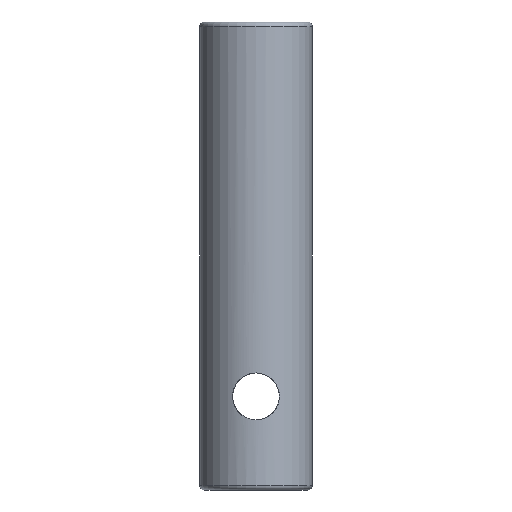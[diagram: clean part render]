
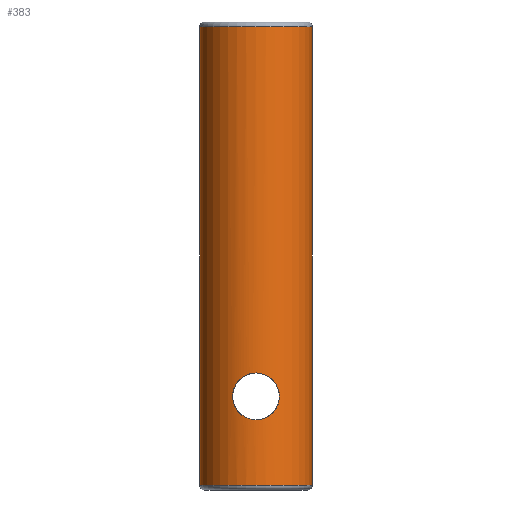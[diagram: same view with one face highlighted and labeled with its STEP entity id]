
A CAD part, front view. The second image highlights one B-rep face of the part: STEP entity #383.
In plain terms, the highlighted cylindrical face has radius 6 mm (diameter 12 mm), a partial arc.
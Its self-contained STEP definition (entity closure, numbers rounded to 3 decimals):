
#20 = CARTESIAN_POINT ( 'NONE',  ( 1.258, -5.868, 7.834 ) ) ;
#21 = CARTESIAN_POINT ( 'NONE',  ( 6., 0., 50. ) ) ;
#33 = CARTESIAN_POINT ( 'NONE',  ( 1.653, -5.769, 11.883 ) ) ;
#46 = CARTESIAN_POINT ( 'NONE',  ( 2.484, -5.462, 9.67 ) ) ;
#60 = EDGE_CURVE ( 'NONE', #730, #531, #308, .T. ) ;
#66 = CARTESIAN_POINT ( 'NONE',  ( -0.812, -5.947, 7.63 ) ) ;
#78 = ORIENTED_EDGE ( 'NONE', *, *, #281, .T. ) ;
#81 = VECTOR ( 'NONE', #179, 1000. ) ;
#95 = CARTESIAN_POINT ( 'NONE',  ( 0.654, -5.966, 7.581 ) ) ;
#106 = CARTESIAN_POINT ( 'NONE',  ( 2.483, -5.462, 10.331 ) ) ;
#117 = CARTESIAN_POINT ( 'NONE',  ( 6., 0., 49.5 ) ) ;
#128 = CARTESIAN_POINT ( 'NONE',  ( -1.986, -5.663, 8.473 ) ) ;
#137 = CARTESIAN_POINT ( 'NONE',  ( -0.333, -5.993, 7.517 ) ) ;
#146 = EDGE_CURVE ( 'NONE', #531, #730, #278, .T. ) ;
#161 = CARTESIAN_POINT ( 'NONE',  ( 0.331, -5.993, 7.517 ) ) ;
#162 = DIRECTION ( 'NONE',  ( 0., 0., -1. ) ) ;
#165 = CARTESIAN_POINT ( 'NONE',  ( 2.243, -5.565, 11.115 ) ) ;
#167 = CARTESIAN_POINT ( 'NONE',  ( 1.113, -5.898, 12.245 ) ) ;
#179 = DIRECTION ( 'NONE',  ( 0., 0., -1. ) ) ;
#185 = CARTESIAN_POINT ( 'NONE',  ( -1.115, -5.898, 12.244 ) ) ;
#199 = CARTESIAN_POINT ( 'NONE',  ( -1.883, -5.698, 8.348 ) ) ;
#226 = CARTESIAN_POINT ( 'NONE',  ( 0., 0., 50. ) ) ;
#227 = CARTESIAN_POINT ( 'NONE',  ( 1.529, -5.804, 8.015 ) ) ;
#246 = CARTESIAN_POINT ( 'NONE',  ( -0.656, -5.966, 12.418 ) ) ;
#252 = CARTESIAN_POINT ( 'NONE',  ( -1.529, -5.804, 11.985 ) ) ;
#254 = CARTESIAN_POINT ( 'NONE',  ( 0., -6., 7.5 ) ) ;
#262 = CARTESIAN_POINT ( 'NONE',  ( 6., 0., 0.5 ) ) ;
#270 = CARTESIAN_POINT ( 'NONE',  ( -1.528, -5.804, 8.015 ) ) ;
#278 = B_SPLINE_CURVE_WITH_KNOTS ( 'NONE', 3,
 ( #446, #569, #629, #246, #384, #185, #631, #252, #692, #312, #822, #449, #573, #697, #758, #819, #459, #701, #395, #837, #518, #128, #199, #330, #270, #652, #648, #66, #829, #137, #586, #465 ),
 .UNSPECIFIED., .F., .F.,
 ( 4, 2, 2, 2, 2, 2, 2, 2, 2, 2, 2, 2, 2, 2, 2, 4 ),
 ( 0.008, 0.008, 0.009, 0.009, 0.01, 0.01, 0.011, 0.011, 0.012, 0.013, 0.013, 0.014, 0.014, 0.015, 0.015, 0.016 ),
 .UNSPECIFIED. ) ;
#281 = EDGE_CURVE ( 'NONE', #412, #786, #539, .T. ) ;
#284 = ORIENTED_EDGE ( 'NONE', *, *, #430, .T. ) ;
#289 = CARTESIAN_POINT ( 'NONE',  ( -6., 0., 0.5 ) ) ;
#297 = CARTESIAN_POINT ( 'NONE',  ( 1.986, -5.663, 11.527 ) ) ;
#303 = CARTESIAN_POINT ( 'NONE',  ( 2.5, -5.454, 10.164 ) ) ;
#308 = B_SPLINE_CURVE_WITH_KNOTS ( 'NONE', 3,
 ( #550, #669, #161, #95, #547, #803, #20, #227, #540, #429, #433, #365, #685, #46, #367, #303, #106, #752, #375, #165, #806, #297, #745, #33, #809, #436, #167, #672, #487, #738 ),
 .UNSPECIFIED., .F., .F.,
 ( 4, 2, 2, 2, 2, 2, 2, 2, 2, 2, 2, 2, 2, 2, 4 ),
 ( 0., 0., 0.001, 0.001, 0.002, 0.003, 0.003, 0.004, 0.004, 0.005, 0.005, 0.006, 0.006, 0.007, 0.008 ),
 .UNSPECIFIED. ) ;
#309 = CARTESIAN_POINT ( 'NONE',  ( -6., 0., 49.5 ) ) ;
#312 = CARTESIAN_POINT ( 'NONE',  ( -1.884, -5.698, 11.651 ) ) ;
#328 = LINE ( 'NONE', #21, #815 ) ;
#330 = CARTESIAN_POINT ( 'NONE',  ( -1.654, -5.769, 8.118 ) ) ;
#339 = CARTESIAN_POINT ( 'NONE',  ( 0., 0., 0.5 ) ) ;
#350 = CYLINDRICAL_SURFACE ( 'NONE', #707, 6. ) ;
#359 = EDGE_LOOP ( 'NONE', ( #702, #284, #546, #78 ) ) ;
#365 = CARTESIAN_POINT ( 'NONE',  ( 2.37, -5.513, 9.187 ) ) ;
#367 = CARTESIAN_POINT ( 'NONE',  ( 2.5, -5.454, 9.833 ) ) ;
#375 = CARTESIAN_POINT ( 'NONE',  ( 2.371, -5.512, 10.811 ) ) ;
#377 = EDGE_LOOP ( 'NONE', ( #626, #691 ) ) ;
#383 = ADVANCED_FACE ( 'NONE', ( #718, #549 ), #350, .T. ) ;
#384 = CARTESIAN_POINT ( 'NONE',  ( -0.812, -5.947, 12.37 ) ) ;
#395 = CARTESIAN_POINT ( 'NONE',  ( -2.433, -5.486, 9.339 ) ) ;
#412 = VERTEX_POINT ( 'NONE', #289 ) ;
#420 = EDGE_CURVE ( 'NONE', #577, #786, #328, .T. ) ;
#428 = CARTESIAN_POINT ( 'NONE',  ( 0., 0., 49.5 ) ) ;
#429 = CARTESIAN_POINT ( 'NONE',  ( 1.997, -5.663, 8.462 ) ) ;
#430 = EDGE_CURVE ( 'NONE', #577, #473, #780, .T. ) ;
#433 = CARTESIAN_POINT ( 'NONE',  ( 2.182, -5.591, 8.737 ) ) ;
#436 = CARTESIAN_POINT ( 'NONE',  ( 1.258, -5.868, 12.166 ) ) ;
#446 = CARTESIAN_POINT ( 'NONE',  ( 0., -6., 12.5 ) ) ;
#449 = CARTESIAN_POINT ( 'NONE',  ( -2.166, -5.596, 11.258 ) ) ;
#459 = CARTESIAN_POINT ( 'NONE',  ( -2.5, -5.454, 10.165 ) ) ;
#465 = CARTESIAN_POINT ( 'NONE',  ( 0., -6., 7.5 ) ) ;
#471 = DIRECTION ( 'NONE',  ( 0., 0., 1. ) ) ;
#473 = VERTEX_POINT ( 'NONE', #309 ) ;
#476 = AXIS2_PLACEMENT_3D ( 'NONE', #428, #162, #804 ) ;
#487 = CARTESIAN_POINT ( 'NONE',  ( 0.329, -6., 12.5 ) ) ;
#518 = CARTESIAN_POINT ( 'NONE',  ( -2.166, -5.596, 8.742 ) ) ;
#531 = VERTEX_POINT ( 'NONE', #562 ) ;
#539 = CIRCLE ( 'NONE', #791, 6. ) ;
#540 = CARTESIAN_POINT ( 'NONE',  ( 1.655, -5.768, 8.119 ) ) ;
#541 = DIRECTION ( 'NONE',  ( 0., 0., -1. ) ) ;
#545 = DIRECTION ( 'NONE',  ( 0., 0., -1. ) ) ;
#546 = ORIENTED_EDGE ( 'NONE', *, *, #609, .T. ) ;
#547 = CARTESIAN_POINT ( 'NONE',  ( 0.813, -5.947, 7.63 ) ) ;
#548 = DIRECTION ( 'NONE',  ( -1., 0., 0. ) ) ;
#549 = FACE_BOUND ( 'NONE', #377, .T. ) ;
#550 = CARTESIAN_POINT ( 'NONE',  ( 0., -6., 7.5 ) ) ;
#562 = CARTESIAN_POINT ( 'NONE',  ( 0., -6., 12.5 ) ) ;
#569 = CARTESIAN_POINT ( 'NONE',  ( -0.165, -6., 12.5 ) ) ;
#571 = CARTESIAN_POINT ( 'NONE',  ( -6., 0., 50. ) ) ;
#573 = CARTESIAN_POINT ( 'NONE',  ( -2.245, -5.565, 11.113 ) ) ;
#577 = VERTEX_POINT ( 'NONE', #117 ) ;
#586 = CARTESIAN_POINT ( 'NONE',  ( -0.167, -6., 7.5 ) ) ;
#609 = EDGE_CURVE ( 'NONE', #473, #412, #796, .T. ) ;
#626 = ORIENTED_EDGE ( 'NONE', *, *, #60, .F. ) ;
#629 = CARTESIAN_POINT ( 'NONE',  ( -0.332, -5.993, 12.483 ) ) ;
#631 = CARTESIAN_POINT ( 'NONE',  ( -1.26, -5.868, 12.165 ) ) ;
#648 = CARTESIAN_POINT ( 'NONE',  ( -1.116, -5.897, 7.757 ) ) ;
#652 = CARTESIAN_POINT ( 'NONE',  ( -1.26, -5.868, 7.834 ) ) ;
#664 = DIRECTION ( 'NONE',  ( 1., 0., 0. ) ) ;
#669 = CARTESIAN_POINT ( 'NONE',  ( 0.167, -6., 7.5 ) ) ;
#672 = CARTESIAN_POINT ( 'NONE',  ( 0.662, -5.971, 12.433 ) ) ;
#685 = CARTESIAN_POINT ( 'NONE',  ( 2.419, -5.491, 9.346 ) ) ;
#691 = ORIENTED_EDGE ( 'NONE', *, *, #146, .F. ) ;
#692 = CARTESIAN_POINT ( 'NONE',  ( -1.654, -5.769, 11.881 ) ) ;
#697 = CARTESIAN_POINT ( 'NONE',  ( -2.37, -5.512, 10.812 ) ) ;
#701 = CARTESIAN_POINT ( 'NONE',  ( -2.5, -5.454, 9.671 ) ) ;
#702 = ORIENTED_EDGE ( 'NONE', *, *, #420, .F. ) ;
#707 = AXIS2_PLACEMENT_3D ( 'NONE', #226, #541, #548 ) ;
#718 = FACE_OUTER_BOUND ( 'NONE', #359, .T. ) ;
#730 = VERTEX_POINT ( 'NONE', #254 ) ;
#738 = CARTESIAN_POINT ( 'NONE',  ( 0., -6., 12.5 ) ) ;
#745 = CARTESIAN_POINT ( 'NONE',  ( 1.881, -5.699, 11.654 ) ) ;
#752 = CARTESIAN_POINT ( 'NONE',  ( 2.419, -5.491, 10.654 ) ) ;
#758 = CARTESIAN_POINT ( 'NONE',  ( -2.418, -5.491, 10.656 ) ) ;
#780 = CIRCLE ( 'NONE', #476, 6. ) ;
#786 = VERTEX_POINT ( 'NONE', #262 ) ;
#791 = AXIS2_PLACEMENT_3D ( 'NONE', #339, #471, #664 ) ;
#796 = LINE ( 'NONE', #571, #81 ) ;
#803 = CARTESIAN_POINT ( 'NONE',  ( 1.115, -5.897, 7.757 ) ) ;
#804 = DIRECTION ( 'NONE',  ( 1., 0., 0. ) ) ;
#806 = CARTESIAN_POINT ( 'NONE',  ( 2.166, -5.596, 11.258 ) ) ;
#809 = CARTESIAN_POINT ( 'NONE',  ( 1.528, -5.804, 11.985 ) ) ;
#815 = VECTOR ( 'NONE', #545, 1000. ) ;
#819 = CARTESIAN_POINT ( 'NONE',  ( -2.483, -5.462, 10.333 ) ) ;
#822 = CARTESIAN_POINT ( 'NONE',  ( -1.986, -5.662, 11.527 ) ) ;
#829 = CARTESIAN_POINT ( 'NONE',  ( -0.655, -5.966, 7.582 ) ) ;
#837 = CARTESIAN_POINT ( 'NONE',  ( -2.245, -5.565, 8.887 ) ) ;
